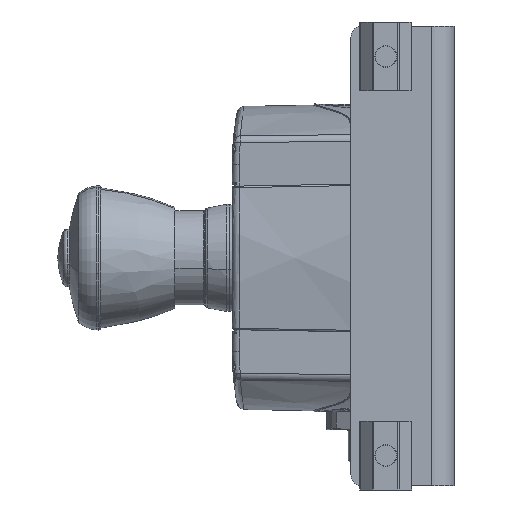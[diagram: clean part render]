
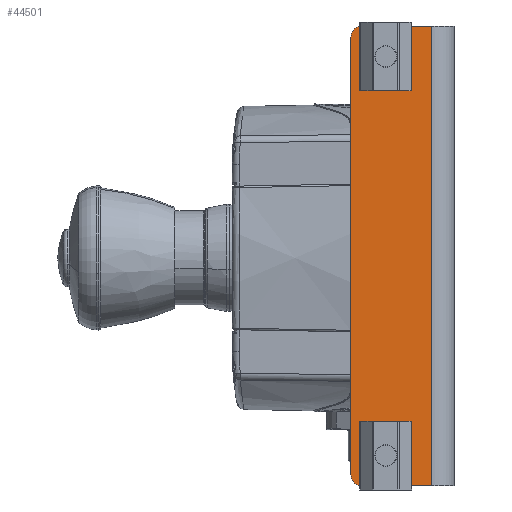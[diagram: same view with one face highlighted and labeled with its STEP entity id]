
A CAD part, left-side view. The second image highlights one B-rep face of the part: STEP entity #44501.
In plain terms, the highlighted planar face has unit normal (-1, 0, 0).
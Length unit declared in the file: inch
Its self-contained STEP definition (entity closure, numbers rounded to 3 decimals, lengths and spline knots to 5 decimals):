
#43643=CARTESIAN_POINT('',(-4.035,1.,2.375));
#43644=DIRECTION('',(-1.,0.,0.));
#43645=DIRECTION('',(0.,0.,1.));
#43646=AXIS2_PLACEMENT_3D('',#43643,#43644,#43645);
#43648=CARTESIAN_POINT('',(-4.035,1.,-2.375));
#43649=DIRECTION('',(-1.,0.,0.));
#43650=DIRECTION('',(0.,1.,0.));
#43651=AXIS2_PLACEMENT_3D('',#43648,#43649,#43650);
#43653=CARTESIAN_POINT('',(-4.035,0.745,2.17));
#43654=DIRECTION('',(1.,0.,0.));
#43655=DIRECTION('',(0.,0.,-1.));
#43656=AXIS2_PLACEMENT_3D('',#43653,#43654,#43655);
#43658=CARTESIAN_POINT('',(-4.035,0.745,2.17));
#43659=DIRECTION('',(1.,0.,0.));
#43660=DIRECTION('',(0.,-1.,0.));
#43661=AXIS2_PLACEMENT_3D('',#43658,#43659,#43660);
#43663=CARTESIAN_POINT('',(-4.035,0.745,2.17));
#43664=DIRECTION('',(1.,0.,0.));
#43665=DIRECTION('',(0.,0.,1.));
#43666=AXIS2_PLACEMENT_3D('',#43663,#43664,#43665);
#43668=CARTESIAN_POINT('',(-4.035,0.745,-2.17));
#43669=DIRECTION('',(1.,0.,0.));
#43670=DIRECTION('',(0.,0.,-1.));
#43671=AXIS2_PLACEMENT_3D('',#43668,#43669,#43670);
#43673=CARTESIAN_POINT('',(-4.035,0.745,-2.17));
#43674=DIRECTION('',(1.,0.,0.));
#43675=DIRECTION('',(0.,-1.,0.));
#43676=AXIS2_PLACEMENT_3D('',#43673,#43674,#43675);
#43678=CARTESIAN_POINT('',(-4.035,0.745,-2.17));
#43679=DIRECTION('',(1.,0.,0.));
#43680=DIRECTION('',(0.,0.,1.));
#43681=AXIS2_PLACEMENT_3D('',#43678,#43679,#43680);
#43683=DIRECTION('',(0.,0.,1.));
#43684=VECTOR('',#43683,4.75);
#43685=CARTESIAN_POINT('',(-4.035,1.125,-2.375));
#43686=LINE('',#43685,#43684);
#43729=DIRECTION('',(0.,1.,0.));
#43730=VECTOR('',#43729,0.75);
#43731=CARTESIAN_POINT('',(-4.035,0.25,-2.5));
#43732=LINE('',#43731,#43730);
#43751=DIRECTION('',(0.,0.,-1.));
#43752=VECTOR('',#43751,5.);
#43753=CARTESIAN_POINT('',(-4.035,0.25,2.5));
#43754=LINE('',#43753,#43752);
#44229=DIRECTION('',(0.,-1.,0.));
#44230=VECTOR('',#44229,0.75);
#44231=CARTESIAN_POINT('',(-4.035,1.,2.5));
#44232=LINE('',#44231,#44230);
#44269=CARTESIAN_POINT('',(-4.035,0.745,-2.3));
#44270=CARTESIAN_POINT('',(-4.035,0.745,-2.04));
#44271=VERTEX_POINT('',#44269);
#44272=VERTEX_POINT('',#44270);
#44283=CARTESIAN_POINT('',(-4.035,0.25,-2.5));
#44284=VERTEX_POINT('',#44283);
#44298=CARTESIAN_POINT('',(-4.035,1.125,2.375));
#44300=VERTEX_POINT('',#44298);
#44311=CARTESIAN_POINT('',(-4.035,0.25,2.5));
#44312=VERTEX_POINT('',#44311);
#44317=CARTESIAN_POINT('',(-4.035,0.745,2.04));
#44318=CARTESIAN_POINT('',(-4.035,0.745,2.3));
#44319=VERTEX_POINT('',#44317);
#44320=VERTEX_POINT('',#44318);
#44331=CARTESIAN_POINT('',(-4.035,1.125,-2.375));
#44332=VERTEX_POINT('',#44331);
#44345=CARTESIAN_POINT('',(-4.035,1.,-2.5));
#44346=VERTEX_POINT('',#44345);
#44375=CARTESIAN_POINT('',(-4.035,1.,2.5));
#44376=VERTEX_POINT('',#44375);
#44377=CARTESIAN_POINT('',(-4.035,0.615,-2.17));
#44378=VERTEX_POINT('',#44377);
#44409=CARTESIAN_POINT('',(-4.035,0.615,2.17));
#44410=VERTEX_POINT('',#44409);
#44469=CARTESIAN_POINT('',(-4.035,0.,0.));
#44470=DIRECTION('',(1.,0.,0.));
#44471=DIRECTION('',(0.,1.,0.));
#44472=AXIS2_PLACEMENT_3D('',#44469,#44470,#44471);
#44473=PLANE('',#44472);
#44475=ORIENTED_EDGE('',*,*,#44474,.T.);
#44477=ORIENTED_EDGE('',*,*,#44476,.F.);
#44479=ORIENTED_EDGE('',*,*,#44478,.T.);
#44481=ORIENTED_EDGE('',*,*,#44480,.T.);
#44483=ORIENTED_EDGE('',*,*,#44482,.T.);
#44485=ORIENTED_EDGE('',*,*,#44484,.F.);
#44486=EDGE_LOOP('',(#44475,#44477,#44479,#44481,#44483,#44485));
#44487=FACE_OUTER_BOUND('',#44486,.F.);
#44489=ORIENTED_EDGE('',*,*,#44488,.F.);
#44491=ORIENTED_EDGE('',*,*,#44490,.F.);
#44493=ORIENTED_EDGE('',*,*,#44492,.F.);
#44494=EDGE_LOOP('',(#44489,#44491,#44493));
#44495=FACE_BOUND('',#44494,.F.);
#44496=ORIENTED_EDGE('',*,*,#44448,.F.);
#44497=ORIENTED_EDGE('',*,*,#44458,.F.);
#44498=ORIENTED_EDGE('',*,*,#44464,.F.);
#44499=EDGE_LOOP('',(#44496,#44497,#44498));
#44500=FACE_BOUND('',#44499,.F.);
#43647=CIRCLE('',#43646,0.125);
#43652=CIRCLE('',#43651,0.125);
#43657=CIRCLE('',#43656,0.13);
#43662=CIRCLE('',#43661,0.13);
#43667=CIRCLE('',#43666,0.13);
#43672=CIRCLE('',#43671,0.13);
#43677=CIRCLE('',#43676,0.13);
#43682=CIRCLE('',#43681,0.13);
#44448=EDGE_CURVE('',#44271,#44272,#43672,.T.);
#44458=EDGE_CURVE('',#44378,#44271,#43677,.T.);
#44464=EDGE_CURVE('',#44272,#44378,#43682,.T.);
#44474=EDGE_CURVE('',#44332,#44300,#43686,.T.);
#44476=EDGE_CURVE('',#44376,#44300,#43647,.T.);
#44478=EDGE_CURVE('',#44376,#44312,#44232,.T.);
#44480=EDGE_CURVE('',#44312,#44284,#43754,.T.);
#44482=EDGE_CURVE('',#44284,#44346,#43732,.T.);
#44484=EDGE_CURVE('',#44332,#44346,#43652,.T.);
#44488=EDGE_CURVE('',#44319,#44320,#43657,.T.);
#44490=EDGE_CURVE('',#44410,#44319,#43662,.T.);
#44492=EDGE_CURVE('',#44320,#44410,#43667,.T.);
#44501=ADVANCED_FACE('',(#44487,#44495,#44500),#44473,.F.);
